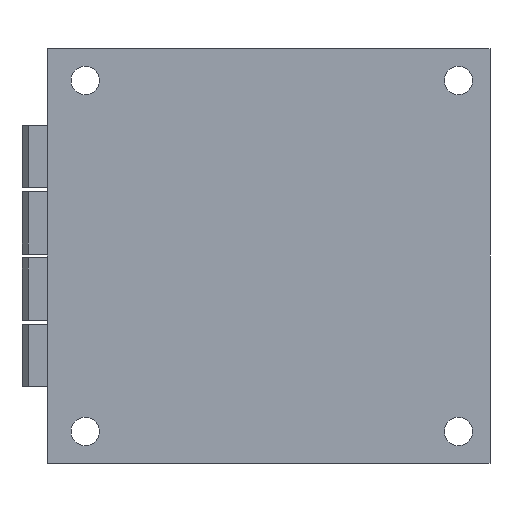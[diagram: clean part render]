
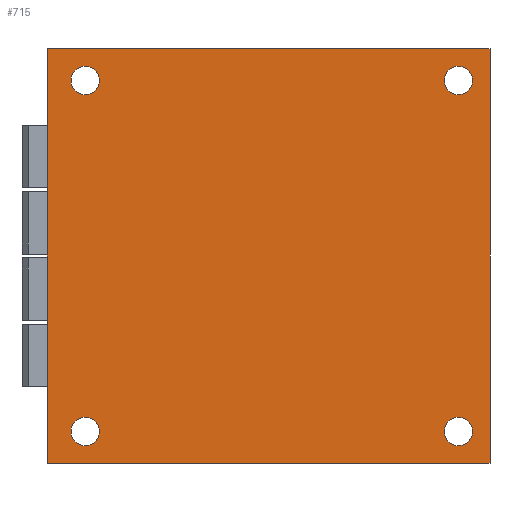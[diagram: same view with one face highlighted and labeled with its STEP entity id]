
A CAD part, front view. The second image highlights one B-rep face of the part: STEP entity #715.
In plain terms, the highlighted planar face has unit normal (0, -1, 0).
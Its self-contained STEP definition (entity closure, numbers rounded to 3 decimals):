
#715=ADVANCED_FACE('',(#1356,#1357,#1358,#1359,#1360),#1361,.F.);
#1356=FACE_OUTER_BOUND('',#2006,.T.);
#1357=FACE_BOUND('',#2007,.T.);
#1358=FACE_BOUND('',#2008,.T.);
#1359=FACE_BOUND('',#2009,.T.);
#1360=FACE_BOUND('',#2010,.T.);
#1361=PLANE('',#2011);
#2006=EDGE_LOOP('',(#4243,#4244,#4245,#4246));
#2007=EDGE_LOOP('',(#4247));
#2008=EDGE_LOOP('',(#4248));
#2009=EDGE_LOOP('',(#4249));
#2010=EDGE_LOOP('',(#4250));
#2011=AXIS2_PLACEMENT_3D('',#4251,#4252,#4253);
#4243=ORIENTED_EDGE('',*,*,#4970,.T.);
#4244=ORIENTED_EDGE('',*,*,#4971,.F.);
#4245=ORIENTED_EDGE('',*,*,#4946,.F.);
#4246=ORIENTED_EDGE('',*,*,#4957,.T.);
#4247=ORIENTED_EDGE('',*,*,#4962,.F.);
#4248=ORIENTED_EDGE('',*,*,#4960,.F.);
#4249=ORIENTED_EDGE('',*,*,#4964,.F.);
#4250=ORIENTED_EDGE('',*,*,#4969,.F.);
#4251=CARTESIAN_POINT('',(0.0,0.0,32.75));
#4252=DIRECTION('',(-0.0,1.0,0.0));
#4253=DIRECTION('',(1.0,0.0,0.0));
#4946=EDGE_CURVE('',#6111,#6113,#6114,.T.);
#4957=EDGE_CURVE('',#6111,#6133,#6135,.T.);
#4960=EDGE_CURVE('',#6139,#6139,#6140,.T.);
#4962=EDGE_CURVE('',#6143,#6143,#6144,.T.);
#4964=EDGE_CURVE('',#6147,#6147,#6148,.T.);
#4969=EDGE_CURVE('',#6156,#6156,#6157,.T.);
#4970=EDGE_CURVE('',#6133,#6158,#6159,.T.);
#4971=EDGE_CURVE('',#6113,#6158,#6160,.T.);
#6111=VERTEX_POINT('',#7960);
#6113=VERTEX_POINT('',#7963);
#6114=LINE('',#7964,#7965);
#6133=VERTEX_POINT('',#7985);
#6135=LINE('',#7988,#7989);
#6139=VERTEX_POINT('',#7994);
#6140=CIRCLE('',#7995,2.25);
#6143=VERTEX_POINT('',#7998);
#6144=CIRCLE('',#7999,2.25);
#6147=VERTEX_POINT('',#8002);
#6148=CIRCLE('',#8003,2.25);
#6156=VERTEX_POINT('',#8013);
#6157=CIRCLE('',#8014,2.25);
#6158=VERTEX_POINT('',#8015);
#6159=LINE('',#8016,#8017);
#6160=LINE('',#8018,#8019);
#7960=CARTESIAN_POINT('',(0.0,0.0,32.75));
#7963=CARTESIAN_POINT('',(70.0,0.0,32.75));
#7964=CARTESIAN_POINT('',(0.0,0.0,32.75));
#7965=VECTOR('',#8922,1.0);
#7985=CARTESIAN_POINT('',(0.0,0.0,-32.75));
#7988=CARTESIAN_POINT('',(0.0,0.0,32.75));
#7989=VECTOR('',#8949,1.0);
#7994=CARTESIAN_POINT('',(65.0,0.0,-25.5));
#7995=AXIS2_PLACEMENT_3D('',#8954,#8955,#8956);
#7998=CARTESIAN_POINT('',(6.0,0.0,30.0));
#7999=AXIS2_PLACEMENT_3D('',#8960,#8961,#8962);
#8002=CARTESIAN_POINT('',(6.0,0.0,-25.5));
#8003=AXIS2_PLACEMENT_3D('',#8966,#8967,#8968);
#8013=CARTESIAN_POINT('',(65.0,0.0,30.0));
#8014=AXIS2_PLACEMENT_3D('',#8977,#8978,#8979);
#8015=CARTESIAN_POINT('',(70.0,0.0,-32.75));
#8016=CARTESIAN_POINT('',(0.0,0.0,-32.75));
#8017=VECTOR('',#8980,1.0);
#8018=CARTESIAN_POINT('',(70.0,0.0,32.75));
#8019=VECTOR('',#8981,1.0);
#8922=DIRECTION('',(1.0,0.0,0.0));
#8949=DIRECTION('',(0.0,0.0,-1.0));
#8954=CARTESIAN_POINT('',(65.0,0.0,-27.75));
#8955=DIRECTION('',(0.0,-1.0,0.0));
#8956=DIRECTION('',(0.0,0.0,1.0));
#8960=CARTESIAN_POINT('',(6.0,0.0,27.75));
#8961=DIRECTION('',(0.0,-1.0,0.0));
#8962=DIRECTION('',(0.0,0.0,1.0));
#8966=CARTESIAN_POINT('',(6.0,0.0,-27.75));
#8967=DIRECTION('',(0.0,-1.0,0.0));
#8968=DIRECTION('',(0.0,0.0,1.0));
#8977=CARTESIAN_POINT('',(65.0,0.0,27.75));
#8978=DIRECTION('',(0.0,-1.0,0.0));
#8979=DIRECTION('',(0.0,0.0,1.0));
#8980=DIRECTION('',(1.0,0.0,0.0));
#8981=DIRECTION('',(0.0,0.0,-1.0));
